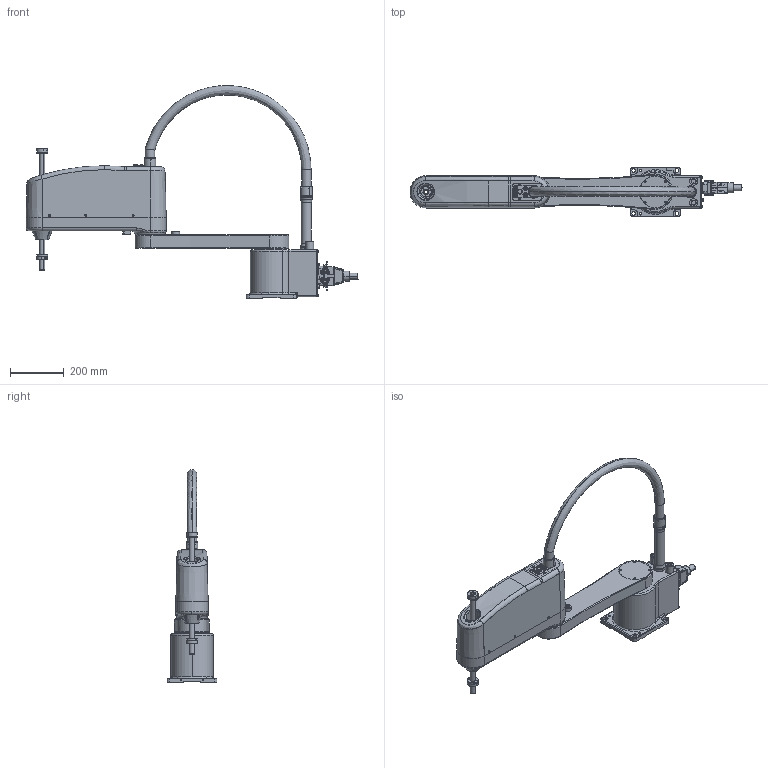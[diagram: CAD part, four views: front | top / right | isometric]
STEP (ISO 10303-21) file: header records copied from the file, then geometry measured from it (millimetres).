
FILE_DESCRIPTION (( 'STEP AP214' ), '1' );
FILE_NAME ('TS850-05-A 机器人模型.STEP', '2018-11-23T09:18:50', ( 'Topstarltd' ), ( 'Topstarltd.Com' ), 'SwSTEP 2.0', 'SolidWorks 2016', '' );
FILE_SCHEMA (( 'AUTOMOTIVE_DESIGN' ));
Length unit declared in the file: millimetre
Products named in the file (40): d-sub 15渀鼠芛; 盓殤_蕼偞; GB／T95-2002平垫圈C级4×0．8; 俋褲; GB70-85_M4x8; 苤旋; 全铜隔板直通 _預設; GB70-85_M10x16; 笭婥假蚾啣; 媼粣滅袉翐_蕼偞; 菁釱; 內六角平圓頭螺釘(GB-T 70.2-2000)_M4*10; GB70-85_M6x25; 裔啣; 媼粣滅袉輸; TS850-05-A 机器人模型; 湮旋; 05防撞垫圈组件; 菁窒裔啣; GB70-85_M3X6; GB70-85_M12x35; GB70-85_M5x20; 滅袉翐_蕼偞; 滅袉菜; 05郪璃; 固定圈; M32鼠秶_蕼偞; SC20; 盄嘐隅奪; GB70-85_M3X10; 蟀諉ん郪璃.SLDPRT; 悵誘裔; H10B-TEH-4B-M25; 疏慶奪34.5 05_ ; H10B-BK-2L_SCN_V1.0; 假蚾郪璃; 鞠褒蹟譫(GB-T 6170)_M3; d-sub 15渀譫芛; 英制六角铜柱#4-40螺丝5+7; 湍腑偌聽  LAS1-AY-11D G DC24V 孜16蟯伎
Assembly tree (86 placements, depth 3):
  TS850-05-A 机器人模型
    菁釱
    蟀諉ん郪璃.SLDPRT
      笭婥假蚾啣
      全铜隔板直通 _預設  x2
      GB70-85_M4x8  x4
      GB／T95-2002平垫圈C级4×0．8  x4
      d-sub 15渀鼠芛
      英制六角铜柱#4-40螺丝5+7  x2
      鞠褒蹟譫(GB-T 6170)_M3  x2
      H10B-BK-2L_SCN_V1.0
      H10B-TEH-4B-M25
    GB70-85_M4x8  x10
    05郪璃
      盄嘐隅奪
      M32鼠秶_蕼偞
    滅袉翐_蕼偞  x2
    GB70-85_M12x35  x2
    菁窒裔啣
    湮旋
    裔啣
    內六角平圓頭螺釘(GB-T 70.2-2000)_M4*10  x12
    媼粣滅袉翐_蕼偞
    GB70-85_M10x16
    苤旋
    俋褲
    假蚾郪璃
      盓殤_蕼偞
      M32鼠秶_蕼偞
      全铜隔板直通 _預設  x2
      湍腑偌聽  LAS1-AY-11D G DC24V 孜16蟯伎
      d-sub 15渀譫芛
      英制六角铜柱#4-40螺丝5+7  x2
      鞠褒蹟譫(GB-T 6170)_M3  x2
    疏慶奪34.5 05_ 
    悵誘裔
    GB70-85_M3X10  x4
    SC20
    05防撞垫圈组件  x2
      固定圈
      滅袉菜
      GB70-85_M5x20
      GB70-85_M3X6
    媼粣滅袉輸
    GB70-85_M6x25  x2
Bounding box: 1231.5 x 185 x 788.87 mm (x, y, z)
Volume: 13226351.7 mm3; surface area: 1715219.8 mm2
Topology: 87 solids, 93 shells, 3627 faces, 8717 edges, 5482 vertices
Faces by surface type: plane 1546, cylinder 1244, cone 389, torus 232, bspline 216
Entity records: 112792 total; most frequent: CARTESIAN_POINT 42048, ORIENTED_EDGE 12496, DIRECTION 12264, EDGE_CURVE 6248, AXIS2_PLACEMENT_3D 4567, VERTEX_POINT 4005, LINE 3130, VECTOR 3130
